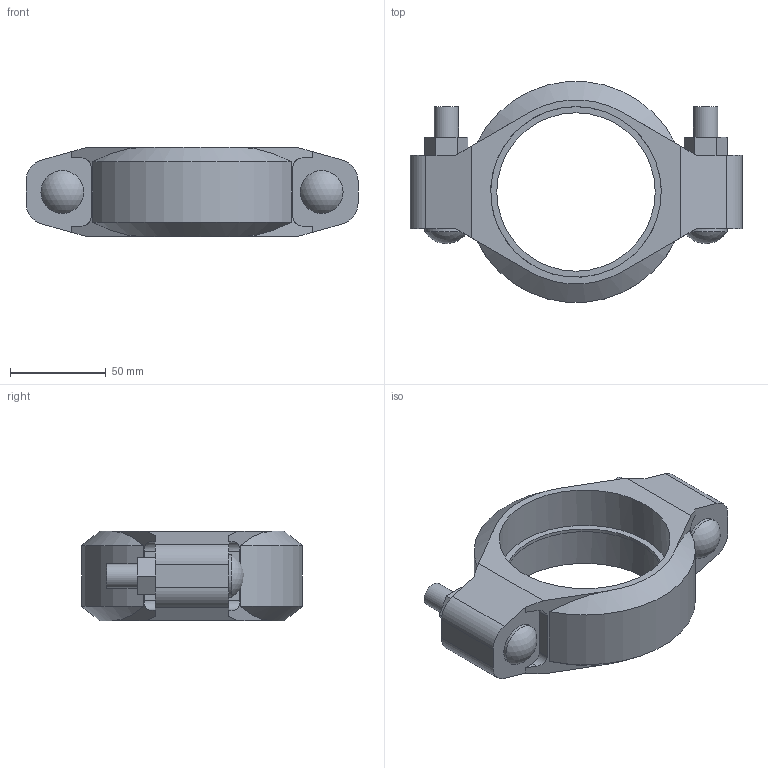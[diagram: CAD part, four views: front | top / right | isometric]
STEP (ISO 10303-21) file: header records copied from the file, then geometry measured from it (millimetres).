
FILE_DESCRIPTION(/* description */ ('VIC COUPLING STYLE 07 RIGID','CAx-IF Rec.Pracs.---Representation and Presentation of Product Manufacturing Information (PMI)---4.0---2014-10-13'),/* implementation_level */ '2;1');
FILE_NAME(/* name */ 'C:\Users\kkamble\Desktop\KIRAN\2022\Updated Couplings\007\Victaulic_IPS_Coupling Rigid_Style 07 (OGS)\Victaulic_IPS_Coupling Rigid_Style 07 (OGS)_3 (80).stp',/* time_stamp */ '2022-03-25T09:56:30+05:00',/* author */ ('jheald'),/* organization */ ('Victaulic'),/* preprocessor_version */ 'ST-DEVELOPER v17.2',/* originating_system */ 'Autodesk Inventor 2019',/* authorisation */ '');
FILE_SCHEMA (('AP242_MANAGED_MODEL_BASED_3D_ENGINEERING_MIM_LF { 1 0 10303 442 1 1 4 }'));
Length unit declared in the file: inch
Products named in the file (1): 07-03.0
Bounding box: 172.97 x 114.89 x 46.74 mm (x, y, z)
Volume: 272477.5 mm3; surface area: 56809 mm2
Topology: 1 solids, 3 shells, 87 faces, 239 edges, 162 vertices
Faces by surface type: plane 54, cylinder 27, cone 4, sphere 2
Full cylindrical faces by diameter (mm): 12.7 x4, 22.225 x2, 82.55 x1, 88.9 x2
Entity records: 3036 total; most frequent: CARTESIAN_POINT 522, DIRECTION 507, ORIENTED_EDGE 478, EDGE_CURVE 239, AXIS2_PLACEMENT_3D 175, VERTEX_POINT 162, LINE 157, VECTOR 157
